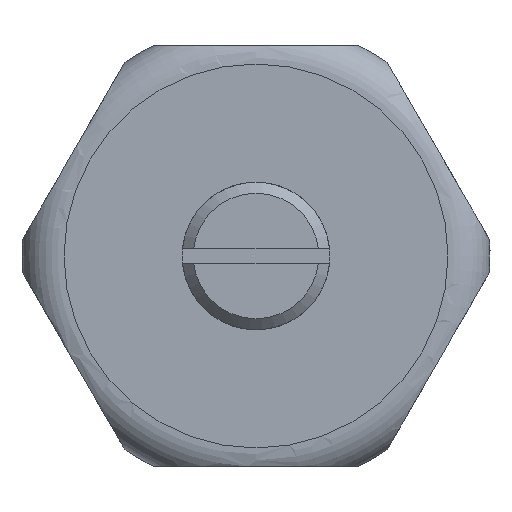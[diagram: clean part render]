
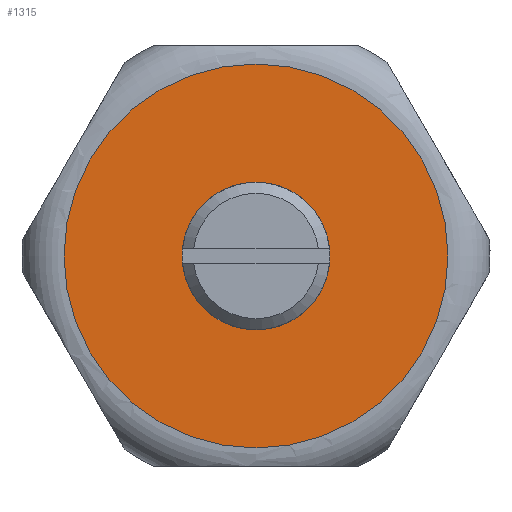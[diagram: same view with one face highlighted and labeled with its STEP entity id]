
A CAD part, left-side view. The second image highlights one B-rep face of the part: STEP entity #1315.
In plain terms, the highlighted planar face has unit normal (-1, 0, 0).
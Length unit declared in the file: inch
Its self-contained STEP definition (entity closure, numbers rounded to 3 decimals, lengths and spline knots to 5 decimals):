
#58=FACE_BOUND('',#230,.T.);
#91=PLANE('',#1491);
#151=FACE_OUTER_BOUND('',#229,.T.);
#229=EDGE_LOOP('',(#1072,#1073));
#230=EDGE_LOOP('',(#1074,#1075));
#411=CIRCLE('',#1447,0.14764);
#412=CIRCLE('',#1448,0.14764);
#438=CIRCLE('',#1492,0.51181);
#439=CIRCLE('',#1493,0.51181);
#534=VERTEX_POINT('',#2169);
#535=VERTEX_POINT('',#2170);
#574=VERTEX_POINT('',#2430);
#575=VERTEX_POINT('',#2431);
#693=EDGE_CURVE('',#534,#535,#411,.T.);
#694=EDGE_CURVE('',#535,#534,#412,.T.);
#750=EDGE_CURVE('',#574,#575,#438,.T.);
#751=EDGE_CURVE('',#575,#574,#439,.T.);
#1072=ORIENTED_EDGE('',*,*,#750,.F.);
#1073=ORIENTED_EDGE('',*,*,#751,.F.);
#1074=ORIENTED_EDGE('',*,*,#693,.T.);
#1075=ORIENTED_EDGE('',*,*,#694,.T.);
#1315=ADVANCED_FACE('',(#151,#58),#91,.T.);
#1447=AXIS2_PLACEMENT_3D('',#2171,#1752,#1753);
#1448=AXIS2_PLACEMENT_3D('',#2172,#1754,#1755);
#1491=AXIS2_PLACEMENT_3D('',#2429,#1856,#1857);
#1492=AXIS2_PLACEMENT_3D('',#2432,#1858,#1859);
#1493=AXIS2_PLACEMENT_3D('',#2433,#1860,#1861);
#1752=DIRECTION('center_axis',(1.,0.,0.));
#1753=DIRECTION('ref_axis',(0.,-0.866,0.5));
#1754=DIRECTION('center_axis',(1.,0.,0.));
#1755=DIRECTION('ref_axis',(0.,-0.866,0.5));
#1856=DIRECTION('center_axis',(-1.,0.,0.));
#1857=DIRECTION('ref_axis',(0.,-0.866,0.5));
#1858=DIRECTION('center_axis',(1.,0.,0.));
#1859=DIRECTION('ref_axis',(0.,0.866,-0.5));
#1860=DIRECTION('center_axis',(1.,0.,0.));
#1861=DIRECTION('ref_axis',(0.,0.866,-0.5));
#2169=CARTESIAN_POINT('',(-2.66747,-0.02656,-0.27052));
#2170=CARTESIAN_POINT('',(-2.66747,0.22916,-0.41816));
#2171=CARTESIAN_POINT('Origin',(-2.66747,0.1013,-0.34434));
#2172=CARTESIAN_POINT('Origin',(-2.66747,0.1013,-0.34434));
#2429=CARTESIAN_POINT('Origin',(-2.66747,0.54454,-0.60025));
#2430=CARTESIAN_POINT('',(-2.66747,0.54454,-0.60025));
#2431=CARTESIAN_POINT('',(-2.66747,-0.34194,-0.08844));
#2432=CARTESIAN_POINT('Origin',(-2.66747,0.1013,-0.34434));
#2433=CARTESIAN_POINT('Origin',(-2.66747,0.1013,-0.34434));
